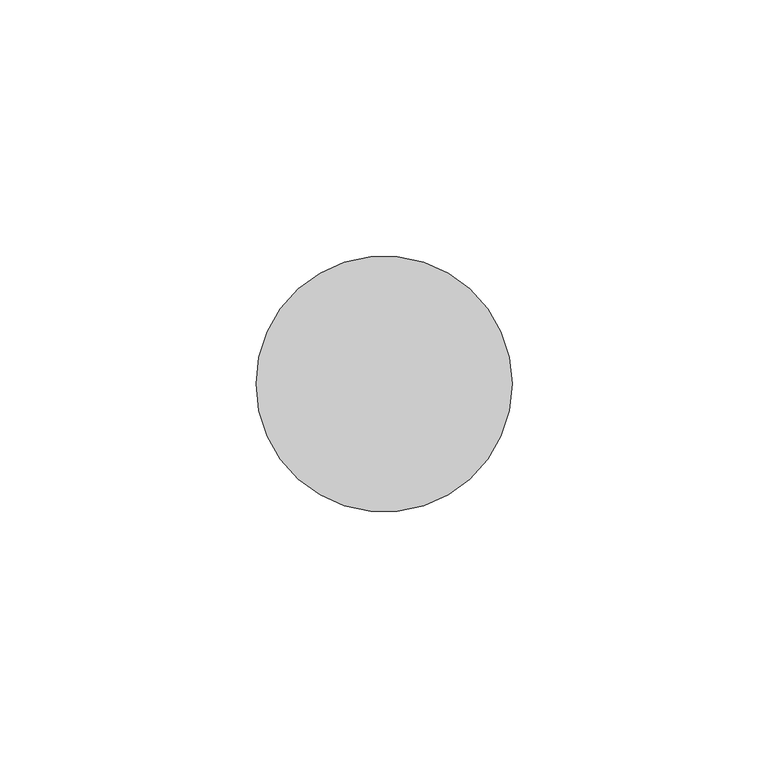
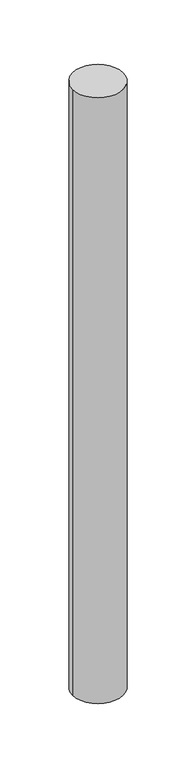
"""IFC4 building model written with IfcOpenShell, lengths in millimetres: member geometry, 圓形豎框 : 25mm 半徑."""

from ifc_helpers import new_model, si_unit, point, frame, origin, origin_2d, place, context, project, spatial, circle_curve, trimmed, segment, composite_curve, outline, extrude, source, transform, mapped, element, save


def member_92b00265(model_context):
    return source(origin(), model_context, "Body", "SweptSolid", [
        extrude(outline(composite_curve([segment(trimmed(circle_curve(origin_2d(), 25.0), [point((25.0, 0.0))], [point((-25.0, 0.0))], False, "CARTESIAN"), True, "CONTINUOUS"), segment(trimmed(circle_curve(origin_2d(), 25.0), [point((-25.0, 0.0))], [point((25.0, 0.0))], False, "CARTESIAN"), True, "CONTINUOUS")], self_intersect=False)), frame((0.0, 0.0, -634.5940789), z_axis=(0.0, 0.0, 1.0), x_axis=(1.0, 0.0, 0.0)), (0.0, 0.0, 1.0), 634.5940789),
    ])


if __name__ == "__main__":
    model = new_model("IFC4")
    model_context = context("Model", 3, world=origin())
    ifc_project = project(units=[si_unit("LENGTHUNIT", "METRE", prefix="MILLI")], contexts=[model_context])
    site = spatial("IfcSite", under=ifc_project)
    building = spatial("IfcBuilding", under=site)
    placement = place(None, origin())
    member_shape = member_92b00265(model_context)
    element("IfcMember", 1, ObjectType="圓形豎框 : 25mm 半徑", at=placement, inside=building, context=model_context, shape_type="MappedRepresentation", body=[
        mapped(member_shape, transform((0.0, 0.0, 0.0), x_axis=(1.0, 0.0, 0.0), y_axis=(0.0, 1.0, 0.0), z_axis=(0.0, 0.0, 1.0))),
    ])
    save(model, "model.ifc")
